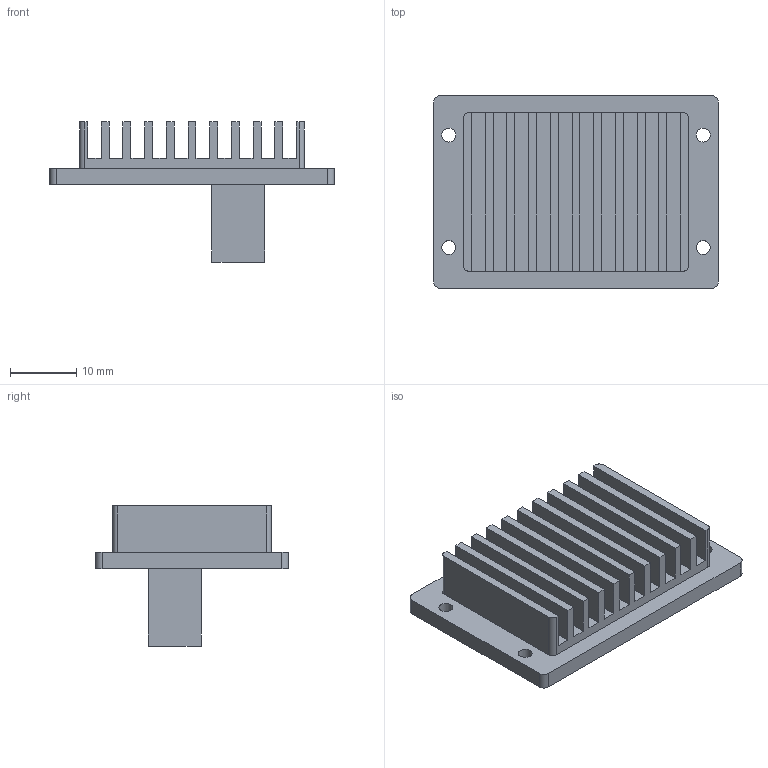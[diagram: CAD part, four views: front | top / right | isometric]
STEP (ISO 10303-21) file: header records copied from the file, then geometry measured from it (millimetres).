
FILE_DESCRIPTION(('Open CASCADE Model'),'2;1');
FILE_NAME('Open CASCADE Shape Model','2026-11-10T13:03:27',('Author'),( 'Open CASCADE'),'Open CASCADE STEP processor 7.7','Open CASCADE 7.7' ,'Unknown');
FILE_SCHEMA(('AUTOMOTIVE_DESIGN { 1 0 10303 214 1 1 1 1 }'));
Length unit declared in the file: millimetre
Products named in the file (1): Open CASCADE STEP translator 7.7 5
Bounding box: 43 x 29.2 x 21.19 mm (x, y, z)
Volume: 6812.9 mm3; surface area: 6492.1 mm2
Topology: 1 solids, 1 shells, 68 faces, 192 edges, 128 vertices
Faces by surface type: plane 56, cylinder 12
Full cylindrical faces by diameter (mm): 2.1 x4
Entity records: 4576 total; most frequent: CARTESIAN_POINT 1025, DIRECTION 556, ORIENTED_EDGE 384, PCURVE 384, DEFINITIONAL_REPRESENTATION 384, LINE 360, VECTOR 360, EDGE_CURVE 192
